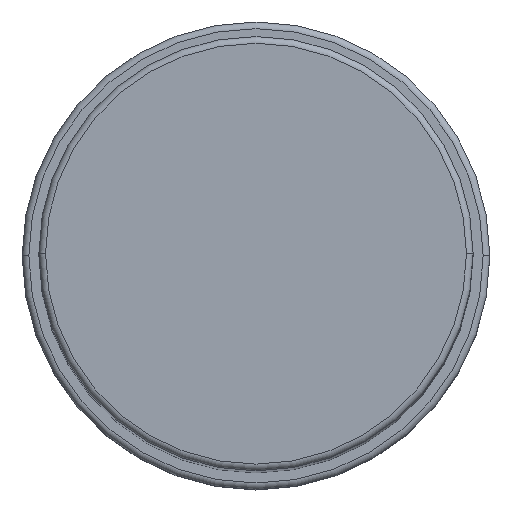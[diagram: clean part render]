
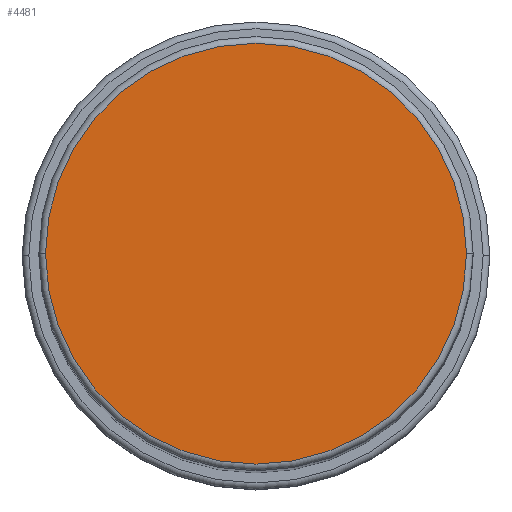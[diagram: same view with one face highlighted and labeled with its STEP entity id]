
A CAD part, top view. The second image highlights one B-rep face of the part: STEP entity #4481.
In plain terms, the highlighted planar face has unit normal (0, 0, 1).
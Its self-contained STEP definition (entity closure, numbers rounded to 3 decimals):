
#8 = FACE_OUTER_BOUND ( 'NONE', #4140, .T. ) ;
#124 = DIRECTION ( 'NONE',  ( 1., 0., 0. ) ) ;
#359 = AXIS2_PLACEMENT_3D ( 'NONE', #5156, #3519, #124 ) ;
#462 = EDGE_CURVE ( 'NONE', #4912, #1883, #1809, .T. ) ;
#567 = AXIS2_PLACEMENT_3D ( 'NONE', #4216, #2501, #4637 ) ;
#1212 = ORIENTED_EDGE ( 'NONE', *, *, #462, .T. ) ;
#1809 = CIRCLE ( 'NONE', #359, 31.5 ) ;
#1883 = VERTEX_POINT ( 'NONE', #3748 ) ;
#2501 = DIRECTION ( 'NONE',  ( 0., 0., 1. ) ) ;
#2662 = DIRECTION ( 'NONE',  ( 1., 0., 0. ) ) ;
#3086 = CARTESIAN_POINT ( 'NONE',  ( 0., 0., 198. ) ) ;
#3409 = ORIENTED_EDGE ( 'NONE', *, *, #5374, .T. ) ;
#3516 = DIRECTION ( 'NONE',  ( 0., 0., 1. ) ) ;
#3519 = DIRECTION ( 'NONE',  ( 0., 0., 1. ) ) ;
#3748 = CARTESIAN_POINT ( 'NONE',  ( 31.5, 0., 198. ) ) ;
#3890 = PLANE ( 'NONE',  #5252 ) ;
#3894 = CARTESIAN_POINT ( 'NONE',  ( -31.5, 0., 198. ) ) ;
#4140 = EDGE_LOOP ( 'NONE', ( #3409, #1212 ) ) ;
#4216 = CARTESIAN_POINT ( 'NONE',  ( 0., 0., 198. ) ) ;
#4481 = ADVANCED_FACE ( 'NONE', ( #8 ), #3890, .T. ) ;
#4637 = DIRECTION ( 'NONE',  ( 1., 0., 0. ) ) ;
#4912 = VERTEX_POINT ( 'NONE', #3894 ) ;
#5156 = CARTESIAN_POINT ( 'NONE',  ( 0., 0., 198. ) ) ;
#5252 = AXIS2_PLACEMENT_3D ( 'NONE', #3086, #3516, #2662 ) ;
#5374 = EDGE_CURVE ( 'NONE', #1883, #4912, #5386, .T. ) ;
#5386 = CIRCLE ( 'NONE', #567, 31.5 ) ;
